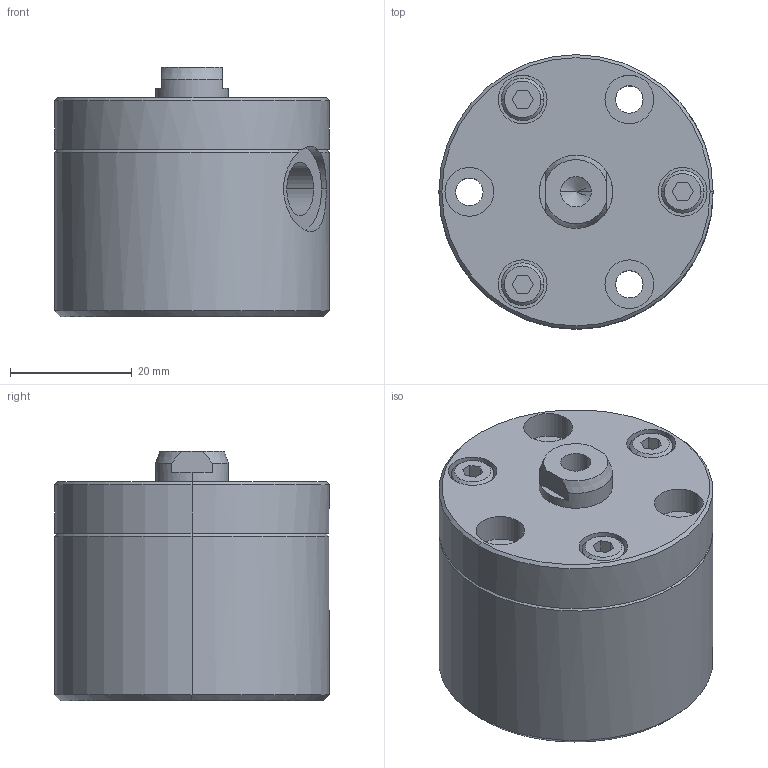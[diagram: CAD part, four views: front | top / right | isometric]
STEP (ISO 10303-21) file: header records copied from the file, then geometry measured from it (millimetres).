
FILE_DESCRIPTION (( 'STEP AP203' ), '1' );
FILE_NAME ('4360 121.STEP', '2016-01-28T12:21:01', ( '' ), ( '' ), 'SwSTEP 2.0', 'SolidWorks 2015', '' );
FILE_SCHEMA (( 'CONFIG_CONTROL_DESIGN' ));
Length unit declared in the file: millimetre
Products named in the file (1): 4360 121
Bounding box: 45 x 45 x 41 mm (x, y, z)
Volume: 51128.6 mm3; surface area: 12451.2 mm2
Topology: 1 solids, 1 shells, 110 faces, 259 edges, 162 vertices
Faces by surface type: cylinder 46, plane 43, cone 21
Entity records: 3393 total; most frequent: CARTESIAN_POINT 724, DIRECTION 576, ORIENTED_EDGE 506, EDGE_CURVE 253, AXIS2_PLACEMENT_3D 224, VERTEX_POINT 162, EDGE_LOOP 133, VECTOR 128
